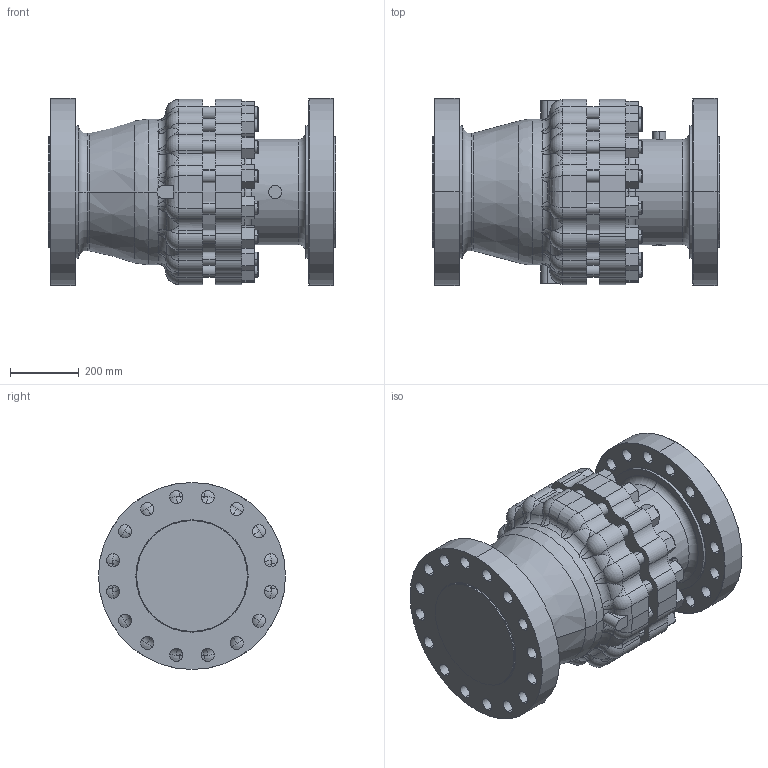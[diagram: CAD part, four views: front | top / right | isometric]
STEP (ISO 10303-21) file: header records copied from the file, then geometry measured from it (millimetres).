
FILE_DESCRIPTION (( 'STEP AP203' ), '1' );
FILE_NAME ('EXC 10-900 RF.step', '2016-04-26T20:36:08', ( '' ), ( '' ), 'SwSTEP 2.0', 'SolidWorks 2015', '' );
FILE_SCHEMA (( 'CONFIG_CONTROL_DESIGN' ));
Length unit declared in the file: inch
Products named in the file (1): EXC 10-900 RF
Bounding box: 838.2 x 546.1 x 546.1 mm (x, y, z)
Volume: 126818229 mm3; surface area: 2772938.6 mm2
Topology: 1 solids, 1 shells, 794 faces, 1903 edges, 1154 vertices
Faces by surface type: cone 284, cylinder 223, plane 163, torus 108, sphere 16
Entity records: 26723 total; most frequent: CARTESIAN_POINT 8499, ORIENTED_EDGE 3806, DIRECTION 3795, EDGE_CURVE 1903, AXIS2_PLACEMENT_3D 1669, VERTEX_POINT 1154, EDGE_LOOP 933, CIRCLE 874
